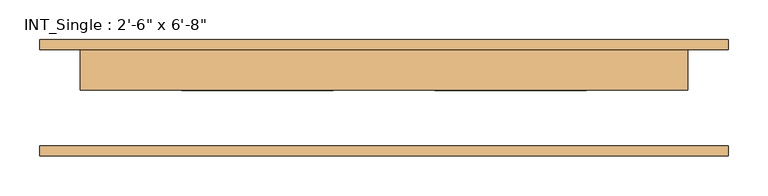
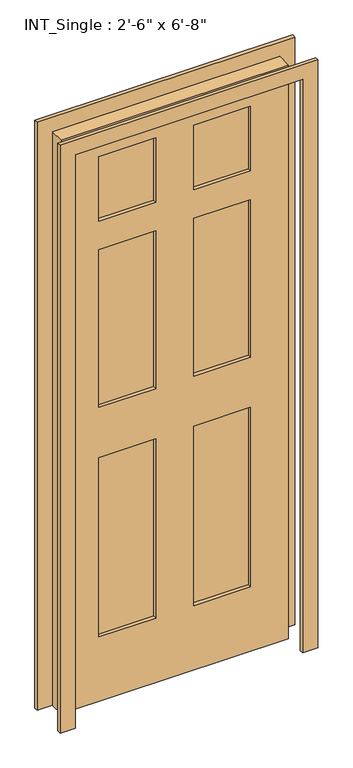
"""IFC4 building model written with IfcOpenShell, lengths in millimetres: door geometry."""

from ifc_helpers import new_model, si_unit, frame, origin, place, context, project, spatial, polyline, outline, extrude, source, transform, mapped, element, save


def door_449ada1f(model_context):
    return source(origin(), model_context, "Body", "SweptSolid", [
        extrude(outline(polyline([(0.0, -431.8), (0.0, -381.0), (2032.0, -381.0), (2032.0, 381.0), (0.0, 381.0), (0.0, 431.8), (2082.8, 431.8), (2082.8, -431.8), (0.0, -431.8)])), frame((0.0, -73.025, 0.0), z_axis=(0.0, 1.0, 0.0), x_axis=(0.0, 0.0, 1.0)), (0.0, 0.0, 1.0), 12.7),
        extrude(outline(polyline([(0.0, 431.8), (2082.8, 431.8), (2082.8, -431.8), (0.0, -431.8), (0.0, -381.0), (2032.0, -381.0), (2032.0, 381.0), (0.0, 381.0), (0.0, 431.8)])), frame((0.0, 60.325, 0.0), z_axis=(0.0, 1.0, 0.0), x_axis=(0.0, 0.0, 1.0)), (0.0, 0.0, 1.0), 12.7),
        extrude(outline(polyline([(-63.5, 22.225), (-254.0, 22.225), (-254.0, 47.625), (-63.5, 47.625), (-63.5, 22.225)])), frame((0.0, 0.0, 1701.8), z_axis=(0.0, 0.0, 1.0), x_axis=(1.0, 0.0, 0.0)), (0.0, 0.0, 1.0), 228.6),
        extrude(outline(polyline([(254.0, 22.225), (63.5, 22.225), (63.5, 47.625), (254.0, 47.625), (254.0, 22.225)])), frame((0.0, 0.0, 1701.8), z_axis=(0.0, 0.0, 1.0), x_axis=(1.0, 0.0, 0.0)), (0.0, 0.0, 1.0), 228.6),
        extrude(outline(polyline([(-63.5, 22.225), (-254.0, 22.225), (-254.0, 47.625), (-63.5, 47.625), (-63.5, 22.225)])), frame((0.0, 0.0, 1041.4), z_axis=(0.0, 0.0, 1.0), x_axis=(1.0, 0.0, 0.0)), (0.0, 0.0, 1.0), 558.8),
        extrude(outline(polyline([(254.0, 22.225), (63.5, 22.225), (63.5, 47.625), (254.0, 47.625), (254.0, 22.225)])), frame((0.0, 0.0, 1041.4), z_axis=(0.0, 0.0, 1.0), x_axis=(1.0, 0.0, 0.0)), (0.0, 0.0, 1.0), 558.8),
        extrude(outline(polyline([(-63.5, 22.225), (-254.0, 22.225), (-254.0, 47.625), (-63.5, 47.625), (-63.5, 22.225)])), frame((0.0, 0.0, 228.6), z_axis=(0.0, 0.0, 1.0), x_axis=(1.0, 0.0, 0.0)), (0.0, 0.0, 1.0), 635.0),
        extrude(outline(polyline([(254.0, 22.225), (63.5, 22.225), (63.5, 47.625), (254.0, 47.625), (254.0, 22.225)])), frame((0.0, 0.0, 228.6), z_axis=(0.0, 0.0, 1.0), x_axis=(1.0, 0.0, 0.0)), (0.0, 0.0, 1.0), 635.0),
        extrude(outline(polyline([(2032.0, 381.0), (2032.0, -381.0), (0.0, -381.0), (0.0, 381.0), (2032.0, 381.0)]), holes=[polyline([(1930.4, -63.5), (1701.8, -63.5), (1701.8, -254.0), (1930.4, -254.0), (1930.4, -63.5)]), polyline([(1930.4, 254.0), (1701.8, 254.0), (1701.8, 63.5), (1930.4, 63.5), (1930.4, 254.0)]), polyline([(1600.2, -63.5), (1041.4, -63.5), (1041.4, -254.0), (1600.2, -254.0), (1600.2, -63.5)]), polyline([(1600.2, 254.0), (1041.4, 254.0), (1041.4, 63.5), (1600.2, 63.5), (1600.2, 254.0)]), polyline([(863.6, -63.5), (228.6, -63.5), (228.6, -254.0), (863.6, -254.0), (863.6, -63.5)]), polyline([(863.6, 254.0), (228.6, 254.0), (228.6, 63.5), (863.6, 63.5), (863.6, 254.0)])]), frame((0.0, 9.525, 0.0), z_axis=(0.0, 1.0, 0.0), x_axis=(0.0, 0.0, 1.0)), (0.0, 0.0, 1.0), 50.8),
    ])


if __name__ == "__main__":
    model = new_model("IFC4")
    model_context = context("Model", 3, world=origin())
    ifc_project = project(units=[si_unit("LENGTHUNIT", "METRE", prefix="MILLI")], contexts=[model_context])
    site = spatial("IfcSite", under=ifc_project)
    building = spatial("IfcBuilding", under=site)
    placement = place(None, origin())
    door_shape = door_449ada1f(model_context)
    element("IfcDoor", 1, ObjectType="INT_Single : 2'-6\" x 6'-8\"", at=placement, inside=building, context=model_context, shape_type="MappedRepresentation", body=[
        mapped(door_shape, transform((0.0, 0.0, 0.0), x_axis=(1.0, 0.0, 0.0), y_axis=(0.0, 1.0, 0.0), z_axis=(0.0, 0.0, 1.0))),
    ])
    save(model, "model.ifc")
